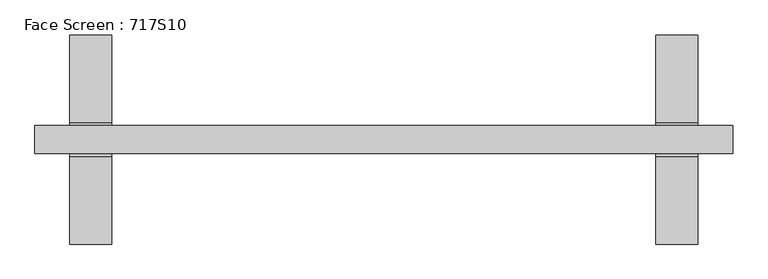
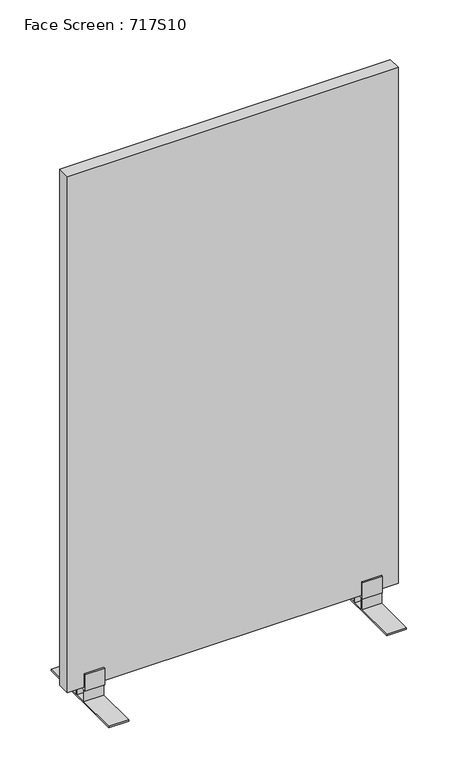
"""IFC4 building model written with IfcOpenShell, lengths in millimetres: furniture geometry, Face Screen : 717S10."""

from ifc_helpers import new_model, si_unit, frame, origin, place, context, project, spatial, polyline, outline, extrude, source, transform, mapped, element, save


def face_screen_717s10_e4c576fd(model_context):
    return source(origin(), model_context, "Body", "SweptSolid", [
        extrude(outline(polyline([(-20.0, 4.0), (-20.0, 40.0), (-24.0, 40.0), (-24.0000047, 93.0166638), (-20.0, 93.0166638), (-20.0, 50.0955899), (20.0, 50.0955899), (20.0, 93.0166638), (24.0, 93.0166638), (23.9999953, 40.0), (20.0, 40.0), (20.0, 4.0), (149.9935713, 4.0), (149.9935713, 0.0), (-150.0064287, 0.0), (-150.0064287, 4.0), (-20.0, 4.0)]), holes=[polyline([(16.0, 40.0), (-16.0, 40.0), (-16.0, 4.0), (16.0, 4.0), (16.0, 40.0)])]), frame((390.0, 0.0, 0.0), z_axis=(1.0, 0.0, 0.0), x_axis=(0.0, 1.0, 0.0)), (0.0, 0.0, 1.0), 60.0),
        extrude(outline(polyline([(20.0, 4.0), (150.0064287, 4.0), (150.0064287, 0.0), (-149.9935713, 0.0), (-149.9935713, 4.0), (-20.0, 4.0), (-20.0, 40.0), (-23.9999953, 40.0), (-24.0, 93.0166638), (-20.0, 93.0166638), (-20.0, 50.0955899), (20.0, 50.0955899), (20.0, 93.0166638), (24.0000047, 93.0166638), (24.0, 40.0), (20.0, 40.0), (20.0, 4.0)]), holes=[polyline([(-16.0, 40.0), (-16.0, 4.0), (16.0, 4.0), (16.0, 40.0), (-16.0, 40.0)])]), frame((-450.0, 0.0, 0.0), z_axis=(1.0, 0.0, 0.0), x_axis=(0.0, 1.0, 0.0)), (0.0, 0.0, 1.0), 60.0),
        extrude(outline(polyline([(500.0, 20.0), (500.0, -20.0), (-500.0, -20.0), (-500.0, 20.0), (500.0, 20.0)])), frame((0.0, 0.0, 50.0), z_axis=(0.0, 0.0, 1.0), x_axis=(1.0, 0.0, 0.0)), (0.0, 0.0, 1.0), 1650.0),
    ])


if __name__ == "__main__":
    model = new_model("IFC4")
    model_context = context("Model", 3, world=origin())
    ifc_project = project(units=[si_unit("LENGTHUNIT", "METRE", prefix="MILLI")], contexts=[model_context])
    site = spatial("IfcSite", under=ifc_project)
    building = spatial("IfcBuilding", under=site)
    placement = place(None, origin())
    face_screen_717s10_shape = face_screen_717s10_e4c576fd(model_context)
    element("IfcFurniture", 1, ObjectType="Face Screen : 717S10", at=placement, inside=building, context=model_context, shape_type="MappedRepresentation", body=[
        mapped(face_screen_717s10_shape, transform((0.0, 0.0, 0.0), x_axis=(1.0, 0.0, 0.0), y_axis=(0.0, 1.0, 0.0), z_axis=(0.0, 0.0, 1.0))),
    ])
    save(model, "model.ifc")
